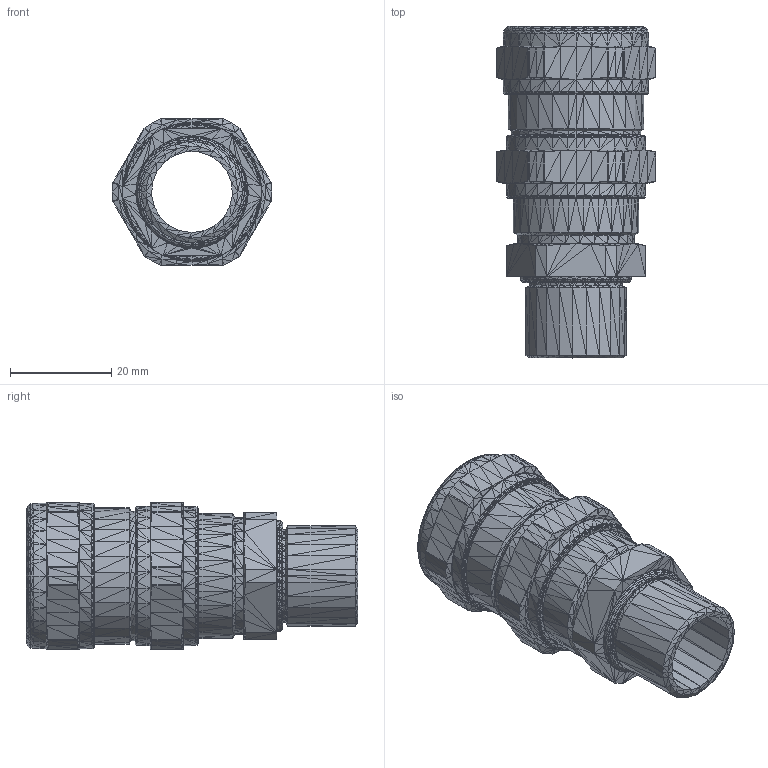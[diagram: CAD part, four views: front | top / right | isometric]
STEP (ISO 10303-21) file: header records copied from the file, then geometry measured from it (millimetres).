
FILE_DESCRIPTION((''),'2;1');
FILE_NAME('051162', '2026-07-08T08:46:19', (''), (''), 'ImageToStl.com STEP Converter','', '');
FILE_SCHEMA(('AUTOMOTIVE_DESIGN_CC2'));
Length unit declared in the file: metre
Products named in the file (1): product0
Bounding box: 31.5 x 65.5 x 29 mm (x, y, z)
Surface area: 10330.7 mm2 (no closed solid volume)
Topology: 0 solids, 4632 shells, 4632 faces, 13896 edges, 2316 vertices
Faces by surface type: plane 4632
Entity records: 106564 total; most frequent: DIRECTION 23162, ORIENTED_EDGE 13896, EDGE_CURVE 13896, LINE 13896, VECTOR 13896, AXIS2_PLACEMENT_3D 4633, FACE_SURFACE 4632, PLANE 4632
